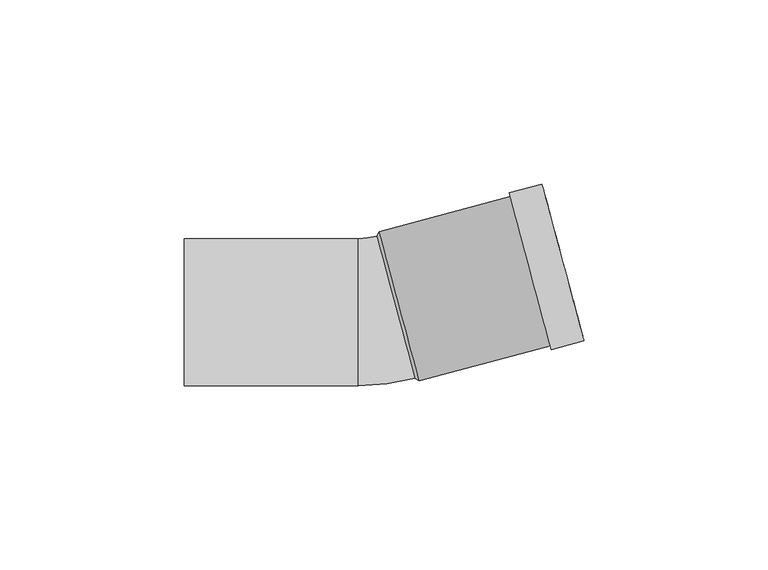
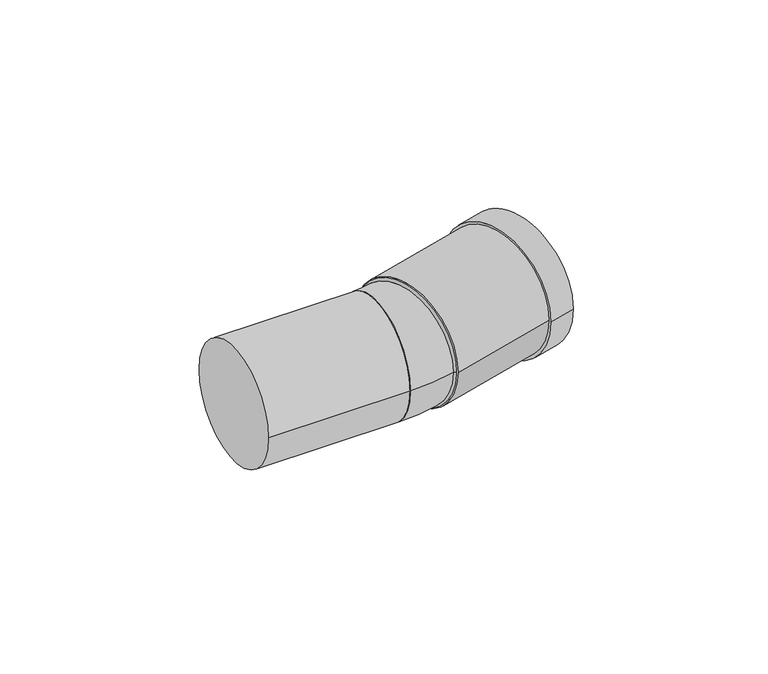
"""IFC4 building model written with IfcOpenShell, lengths in millimetres: pipe fitting geometry, Superdrain HT bend : Superdrain HT Bend."""

from ifc_helpers import new_model, si_unit, point, frame, origin, origin_2d, place, context, project, spatial, polyline, circle_curve, ellipse_curve, trimmed, segment, composite_curve, outline, extrude, source, transform, mapped, element, save
from ifc_brep_helpers import plane_surface, revolved_surface, advanced_brep


def pipe_fitting_448b761f(model_context):
    return source(origin(), model_context, "Body", "SolidModel", [
        advanced_brep(
        [(10.1991952, -17.9726575, 0.0), (-0.1535666, 20.6643756, 0.0), (-5.2, -20.0, 0.0), (-5.2, 20.0, 0.0)],
        [
            (0, 1, circle_curve(frame((5.0228143, 1.345859, 0.0), z_axis=(0.965925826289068, 0.258819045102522, 0.0), x_axis=(-0.258819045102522, 0.965925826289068, 0.0)), 20.0)),
            (1, 0, circle_curve(frame((5.0228143, 1.345859, 0.0), z_axis=(0.965925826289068, 0.2588190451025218, 0.0), x_axis=(-0.2588190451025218, 0.965925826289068, 0.0)), 20.0)),
            (2, 3, circle_curve(frame((-5.2, 0.0, 0.0), z_axis=(-1.0, 0.0, 0.0), x_axis=(0.0, 1.0, 0.0)), 20.0)),
            (3, 2, circle_curve(frame((-5.2, 0.0, 0.0), z_axis=(-1.0, 0.0, 0.0), x_axis=(0.0, 1.0, 0.0)), 20.0)),
            (3, 1, circle_curve(frame((-5.2, 39.4979214, 0.0), z_axis=(0.0, 0.0, 1.0), x_axis=(1.0, 0.0, 0.0)), 19.4979214)),
            (0, 2, circle_curve(frame((-5.2, 39.4979214, 0.0), z_axis=(0.0, 0.0, -1.0), x_axis=(1.0, 0.0, 0.0)), 59.4979214)),
        ],
        [
            plane_surface(frame((5.0228143, 1.345859, 0.0), z_axis=(0.965925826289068, 0.25881904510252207, 0.0), x_axis=(0.0, 0.0, -1.0))),
            plane_surface(frame((-5.2, 0.0, 0.0), z_axis=(-1.0, 0.0, 0.0), x_axis=(0.0, 0.0, -1.0))),
            revolved_surface(trimmed(ellipse_curve(frame((34.2979214, 39.4979214, 0.0), z_axis=(0.0, -1.0, 0.0), x_axis=(-1.0, 0.0, 0.0)), 20.0, 20.0), [point((14.2979214, 39.4979214, 0.0))], [point((54.2979214, 39.4979214, 0.0))], True, "CARTESIAN"), (-5.2, 39.4979214, 0.0), (0.0, 0.0, 1.0)),
            revolved_surface(trimmed(ellipse_curve(frame((34.2979214, 39.4979214, 0.0), z_axis=(0.0, -1.0, 0.0), x_axis=(-1.0, 0.0, 0.0)), 20.0, 20.0), [point((54.2979214, 39.4979214, 0.0))], [point((14.2979214, 39.4979214, 0.0))], True, "CARTESIAN"), (-5.2, 39.4979214, 0.0), (0.0, 0.0, 1.0)),
        ],
        [
            (0, [[1, 2]]),
            (1, [[3, 4]]),
            (2, [[-4, 5, -1, 6]]),
            (3, [[-3, -6, -2, -5]]),
        ],
    ),
        extrude(outline(composite_curve([segment(trimmed(circle_curve(origin_2d(), 21.0), [point((0.0, 21.0000001))], [point((0.0, -20.9999999))], False, "CARTESIAN"), True, "CONTINUOUS"), segment(trimmed(circle_curve(origin_2d(), 21.0), [point((0.0, -20.9999999))], [point((0.0, 21.0000001))], False, "CARTESIAN"), True, "CONTINUOUS")], self_intersect=False), holes=[composite_curve([segment(trimmed(circle_curve(origin_2d(), 20.0), [point((0.0, 20.0))], [point((0.0, -20.0))], True, "CARTESIAN"), True, "CONTINUOUS"), segment(trimmed(circle_curve(origin_2d(), 20.0), [point((0.0, -20.0))], [point((0.0, 20.0))], True, "CARTESIAN"), True, "CONTINUOUS")], self_intersect=False)]), frame((5.9887401, 1.6046781, 0.0), z_axis=(0.9659258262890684, 0.2588190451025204, 0.0), x_axis=(0.0, 0.0, 1.0)), (0.0, 0.0, 1.0), 46.0),
        extrude(outline(composite_curve([segment(trimmed(circle_curve(origin_2d(), 22.05), [point((0.0, -22.05))], [point((0.0, 22.0499999))], False, "CARTESIAN"), True, "CONTINUOUS"), segment(trimmed(circle_curve(origin_2d(), 22.05), [point((0.0, 22.0499999))], [point((0.0, -22.05))], False, "CARTESIAN"), True, "CONTINUOUS")], self_intersect=False), holes=[composite_curve([segment(trimmed(circle_curve(origin_2d(), 20.0), [point((0.0, -20.0000001))], [point((0.0, 20.0))], True, "CARTESIAN"), True, "CONTINUOUS"), segment(trimmed(circle_curve(origin_2d(), 20.0), [point((0.0, 20.0))], [point((0.0, -20.0000001))], True, "CARTESIAN"), True, "CONTINUOUS")], self_intersect=False)]), frame((41.5348105, 11.1292189, 0.0), z_axis=(0.9659258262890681, 0.2588190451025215, 0.0), x_axis=(0.0, 0.0, 1.0)), (0.0, 0.0, 1.0), 9.2),
        advanced_brep(
        [(11.4239401, -18.6797643, 0.0), (0.5535402, 21.8891204, 0.0), (10.1991952, -17.9726575, 0.0), (-0.1535666, 20.6643756, 0.0)],
        [
            (0, 1, circle_curve(frame((5.9887401, 1.6046781, 0.0), z_axis=(0.9659258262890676, 0.25881904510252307, 0.0), x_axis=(0.25881904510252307, -0.9659258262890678, 0.0)), 21.0)),
            (1, 0, circle_curve(frame((5.9887401, 1.6046781, 0.0), z_axis=(0.9659258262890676, 0.25881904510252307, 0.0), x_axis=(-0.2588190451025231, 0.9659258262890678, 0.0)), 21.0)),
            (2, 3, circle_curve(frame((5.0228143, 1.345859, 0.0), z_axis=(-0.9659258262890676, -0.25881904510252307, 0.0), x_axis=(-0.2588190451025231, 0.9659258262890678, 0.0)), 20.0)),
            (3, 2, circle_curve(frame((5.0228143, 1.345859, 0.0), z_axis=(-0.9659258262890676, -0.25881904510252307, 0.0), x_axis=(0.25881904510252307, -0.9659258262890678, 0.0)), 20.0)),
            (3, 1),
            (0, 2),
        ],
        [
            plane_surface(frame((5.9887401, 1.6046781, 0.0), z_axis=(0.9659258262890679, 0.25881904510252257, 0.0), x_axis=(0.0, 0.0, -1.0))),
            plane_surface(frame((5.0228143, 1.345859, 0.0), z_axis=(-0.9659258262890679, -0.25881904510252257, 0.0), x_axis=(0.0, 0.0, -1.0))),
            revolved_surface(polyline([(-0.15356659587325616, 20.66437550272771, 0.0), (0.5535402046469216, 21.8891204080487, 0.0)]), (-14.2957022, -3.8305219, 0.0), (0.9659258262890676, 0.25881904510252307, 0.0)),
            revolved_surface(polyline([(10.199195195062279, -17.972657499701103, 0.0), (11.423940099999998, -18.6797643, 0.0)]), (-14.2957022, -3.8305219, 0.0), (0.9659258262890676, 0.25881904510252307, 0.0)),
        ],
        [
            (0, [[1, 2]]),
            (1, [[3, 4]]),
            (2, [[-4, 5, -1, 6]]),
            (3, [[-3, -6, -2, -5]]),
        ],
    ),
        extrude(outline(composite_curve([segment(trimmed(circle_curve(origin_2d(), 20.0), [point((-20.0, 0.0))], [point((20.0, 0.0))], False, "CARTESIAN"), True, "CONTINUOUS"), segment(trimmed(circle_curve(origin_2d(), 20.0), [point((20.0, 0.0))], [point((-20.0, 0.0))], False, "CARTESIAN"), True, "CONTINUOUS")], self_intersect=False)), frame((-52.5, 0.0, 0.0), z_axis=(1.0, 0.0, 0.0), x_axis=(0.0, 1.0, 0.0)), (0.0, 0.0, 1.0), 47.3),
    ])


if __name__ == "__main__":
    model = new_model("IFC4")
    model_context = context("Model", 3, world=origin())
    ifc_project = project(units=[si_unit("LENGTHUNIT", "METRE", prefix="MILLI")], contexts=[model_context])
    site = spatial("IfcSite", under=ifc_project)
    building = spatial("IfcBuilding", under=site)
    placement = place(None, origin())
    pipe_fitting_shape = pipe_fitting_448b761f(model_context)
    element("IfcPipeFitting", 1, ObjectType="Superdrain HT bend : Superdrain HT Bend", at=placement, inside=building, context=model_context, shape_type="MappedRepresentation", body=[
        mapped(pipe_fitting_shape, transform((0.0, 0.0, 0.0), x_axis=(1.0, 0.0, 0.0), y_axis=(0.0, 1.0, 0.0), z_axis=(0.0, 0.0, 1.0))),
    ])
    save(model, "model.ifc")
